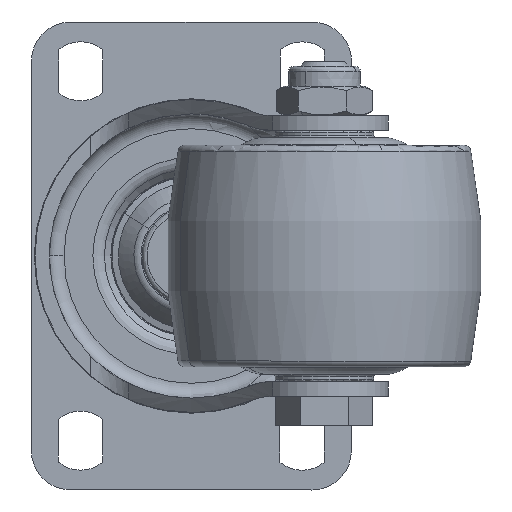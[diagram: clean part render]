
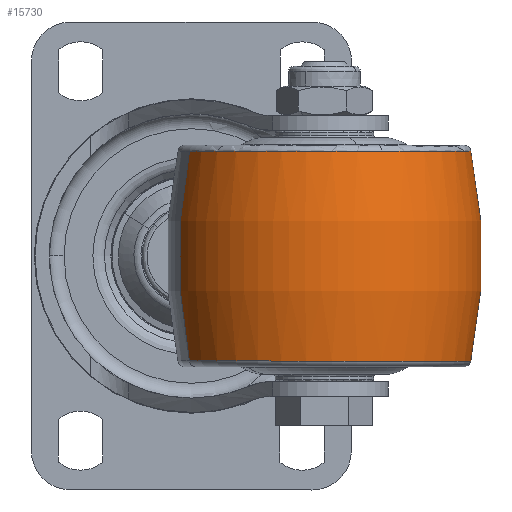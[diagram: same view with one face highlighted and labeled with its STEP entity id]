
A CAD part, front view. The second image highlights one B-rep face of the part: STEP entity #15730.
In plain terms, the highlighted toroidal (fillet/blend) face has major radius 70.5 mm and minor radius 102.5 mm.
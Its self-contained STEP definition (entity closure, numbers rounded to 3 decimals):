
#125 = AXIS2_PLACEMENT_3D ( 'NONE', #7240, #3175, #764 ) ;
#252 = CARTESIAN_POINT ( 'NONE',  ( 21.312, 0., 0. ) ) ;
#449 = DIRECTION ( 'NONE',  ( 0., 0., -1. ) ) ;
#676 = VERTEX_POINT ( 'NONE', #2564 ) ;
#764 = DIRECTION ( 'NONE',  ( 0., 0., -1. ) ) ;
#820 = FACE_OUTER_BOUND ( 'NONE', #3693, .T. ) ;
#1365 = EDGE_CURVE ( 'NONE', #4366, #9941, #13539, .T. ) ;
#2479 = ORIENTED_EDGE ( 'NONE', *, *, #6067, .F. ) ;
#2522 = EDGE_CURVE ( 'NONE', #8810, #4366, #13427, .T. ) ;
#2564 = CARTESIAN_POINT ( 'NONE',  ( 21.312, -29.76, 0. ) ) ;
#2670 = AXIS2_PLACEMENT_3D ( 'NONE', #5928, #6876, #8695 ) ;
#3175 = DIRECTION ( 'NONE',  ( 1., 0., 0. ) ) ;
#3484 = AXIS2_PLACEMENT_3D ( 'NONE', #11899, #11643, #449 ) ;
#3693 = EDGE_LOOP ( 'NONE', ( #2479, #13743, #6080, #7231, #12244 ) ) ;
#3734 = AXIS2_PLACEMENT_3D ( 'NONE', #4011, #15664, #4114 ) ;
#4011 = CARTESIAN_POINT ( 'NONE',  ( 0., 0., -70.5 ) ) ;
#4114 = DIRECTION ( 'NONE',  ( 0., 0., -1. ) ) ;
#4235 = EDGE_CURVE ( 'NONE', #12049, #676, #13742, .T. ) ;
#4366 = VERTEX_POINT ( 'NONE', #9779 ) ;
#4666 = CIRCLE ( 'NONE', #15973, 29.76 ) ;
#5260 = CARTESIAN_POINT ( 'NONE',  ( -21.312, 0., -29.76 ) ) ;
#5928 = CARTESIAN_POINT ( 'NONE',  ( 0., 0., 70.5 ) ) ;
#6067 = EDGE_CURVE ( 'NONE', #12049, #9941, #10794, .T. ) ;
#6080 = ORIENTED_EDGE ( 'NONE', *, *, #15406, .T. ) ;
#6876 = DIRECTION ( 'NONE',  ( 0., 1., 0. ) ) ;
#7231 = ORIENTED_EDGE ( 'NONE', *, *, #2522, .T. ) ;
#7240 = CARTESIAN_POINT ( 'NONE',  ( -21.312, 0., 0. ) ) ;
#7384 = DIRECTION ( 'NONE',  ( 0., 0., 1. ) ) ;
#8695 = DIRECTION ( 'NONE',  ( 0., 0., 1. ) ) ;
#8810 = VERTEX_POINT ( 'NONE', #9343 ) ;
#9244 = DIRECTION ( 'NONE',  ( -1., 0., 0. ) ) ;
#9343 = CARTESIAN_POINT ( 'NONE',  ( 21.312, 0., 29.76 ) ) ;
#9759 = AXIS2_PLACEMENT_3D ( 'NONE', #10003, #12284, #7384 ) ;
#9779 = CARTESIAN_POINT ( 'NONE',  ( -21.312, 0., 29.76 ) ) ;
#9941 = VERTEX_POINT ( 'NONE', #5260 ) ;
#10003 = CARTESIAN_POINT ( 'NONE',  ( 0., 0., 0. ) ) ;
#10794 = CIRCLE ( 'NONE', #2670, 102.5 ) ;
#11643 = DIRECTION ( 'NONE',  ( -1., 0., 0. ) ) ;
#11715 = DIRECTION ( 'NONE',  ( 0., 0., -1. ) ) ;
#11899 = CARTESIAN_POINT ( 'NONE',  ( 21.312, 0., 0. ) ) ;
#12049 = VERTEX_POINT ( 'NONE', #16254 ) ;
#12244 = ORIENTED_EDGE ( 'NONE', *, *, #1365, .T. ) ;
#12284 = DIRECTION ( 'NONE',  ( -1., 0., 0. ) ) ;
#13427 = CIRCLE ( 'NONE', #3734, 102.5 ) ;
#13539 = CIRCLE ( 'NONE', #125, 29.76 ) ;
#13742 = CIRCLE ( 'NONE', #3484, 29.76 ) ;
#13743 = ORIENTED_EDGE ( 'NONE', *, *, #4235, .T. ) ;
#14590 = TOROIDAL_SURFACE ( 'NONE', #9759, -70.5, 102.5 ) ;
#15406 = EDGE_CURVE ( 'NONE', #676, #8810, #4666, .T. ) ;
#15664 = DIRECTION ( 'NONE',  ( 0., -1., 0. ) ) ;
#15730 = ADVANCED_FACE ( 'NONE', ( #820 ), #14590, .T. ) ;
#15973 = AXIS2_PLACEMENT_3D ( 'NONE', #252, #9244, #11715 ) ;
#16254 = CARTESIAN_POINT ( 'NONE',  ( 21.312, 0., -29.76 ) ) ;
